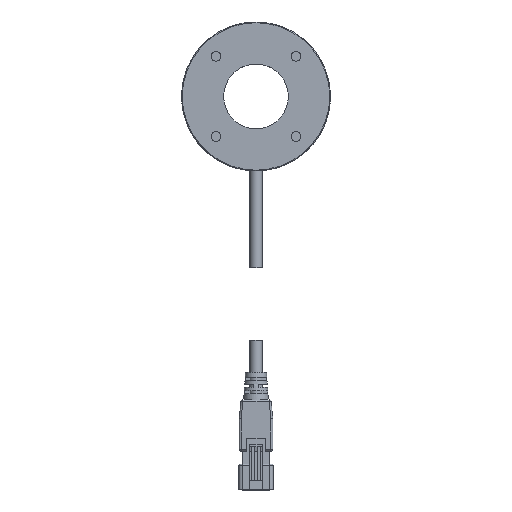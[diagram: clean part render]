
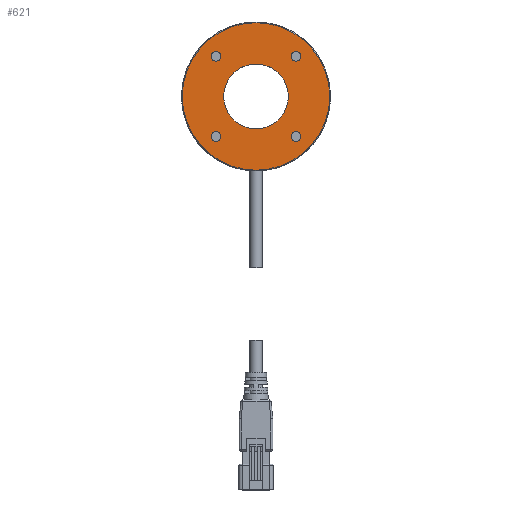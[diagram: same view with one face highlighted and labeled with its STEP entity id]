
A CAD part, top view. The second image highlights one B-rep face of the part: STEP entity #621.
In plain terms, the highlighted planar face has unit normal (0, 0, 1).
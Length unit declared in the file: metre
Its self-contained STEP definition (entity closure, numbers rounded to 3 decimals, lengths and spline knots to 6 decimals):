
#621=ADVANCED_FACE('489:2714',(#1496,#1497,#1498,#1499,#1500,#1501),#1502,.T.);
#1496=FACE_OUTER_BOUND('',#2550,.T.);
#1497=FACE_BOUND('',#2551,.T.);
#1498=FACE_BOUND('',#2552,.T.);
#1499=FACE_BOUND('',#2553,.T.);
#1500=FACE_BOUND('',#2554,.T.);
#1501=FACE_BOUND('',#2555,.T.);
#1502=PLANE('',#2556);
#2550=EDGE_LOOP('',(#4341));
#2551=EDGE_LOOP('',(#4342));
#2552=EDGE_LOOP('',(#4343));
#2553=EDGE_LOOP('',(#4344));
#2554=EDGE_LOOP('',(#4345));
#2555=EDGE_LOOP('',(#4346));
#2556=AXIS2_PLACEMENT_3D('',#4347,#4348,#4349);
#4341=ORIENTED_EDGE('',*,*,#6153,.F.);
#4342=ORIENTED_EDGE('',*,*,#6154,.F.);
#4343=ORIENTED_EDGE('',*,*,#6155,.F.);
#4344=ORIENTED_EDGE('',*,*,#6156,.F.);
#4345=ORIENTED_EDGE('',*,*,#6157,.F.);
#4346=ORIENTED_EDGE('',*,*,#6151,.F.);
#4347=CARTESIAN_POINT('',(0.0,0.0,0.016));
#4348=DIRECTION('',(0.0,0.0,1.0));
#4349=DIRECTION('',(1.0,0.,0.0));
#6151=EDGE_CURVE('489:3359',#7216,#7216,#7217,.T.);
#6153=EDGE_CURVE('489:3344',#7219,#7219,#7220,.T.);
#6154=EDGE_CURVE('489:3347',#7221,#7221,#7222,.T.);
#6155=EDGE_CURVE('489:3350',#7223,#7223,#7224,.T.);
#6156=EDGE_CURVE('489:3353',#7225,#7225,#7226,.T.);
#6157=EDGE_CURVE('489:3356',#7227,#7227,#7228,.T.);
#7216=VERTEX_POINT('',#10489);
#7217=CIRCLE('',#10490,0.0015);
#7219=VERTEX_POINT('',#10492);
#7220=CIRCLE('',#10493,0.0228);
#7221=VERTEX_POINT('',#10494);
#7222=CIRCLE('',#10495,0.01);
#7223=VERTEX_POINT('',#10496);
#7224=CIRCLE('',#10497,0.0015);
#7225=VERTEX_POINT('',#10498);
#7226=CIRCLE('',#10499,0.0015);
#7227=VERTEX_POINT('',#10500);
#7228=CIRCLE('',#10501,0.0015);
#10489=CARTESIAN_POINT('',(0.012374,-0.010874,0.016));
#10490=AXIS2_PLACEMENT_3D('',#12040,#12041,#12042);
#10492=CARTESIAN_POINT('',(-0.0228,0.,0.016));
#10493=AXIS2_PLACEMENT_3D('',#12043,#12044,#12045);
#10494=CARTESIAN_POINT('',(0.01,0.,0.016));
#10495=AXIS2_PLACEMENT_3D('',#12046,#12047,#12048);
#10496=CARTESIAN_POINT('',(-0.012374,0.013874,0.016));
#10497=AXIS2_PLACEMENT_3D('',#12049,#12050,#12051);
#10498=CARTESIAN_POINT('',(-0.012374,-0.010874,0.016));
#10499=AXIS2_PLACEMENT_3D('',#12052,#12053,#12054);
#10500=CARTESIAN_POINT('',(0.012374,0.013874,0.016));
#10501=AXIS2_PLACEMENT_3D('',#12055,#12056,#12057);
#12040=CARTESIAN_POINT('',(0.012374,-0.012374,0.016));
#12041=DIRECTION('',(0.0,0.0,1.0));
#12042=DIRECTION('',(0.,1.0,-0.0));
#12043=CARTESIAN_POINT('',(0.0,0.0,0.016));
#12044=DIRECTION('',(-0.0,0.0,-1.0));
#12045=DIRECTION('',(-1.0,0.,0.0));
#12046=CARTESIAN_POINT('',(0.0,0.0,0.016));
#12047=DIRECTION('',(0.0,0.0,1.0));
#12048=DIRECTION('',(1.0,0.,0.0));
#12049=CARTESIAN_POINT('',(-0.012374,0.012374,0.016));
#12050=DIRECTION('',(0.0,0.0,1.0));
#12051=DIRECTION('',(0.,1.0,-0.0));
#12052=CARTESIAN_POINT('',(-0.012374,-0.012374,0.016));
#12053=DIRECTION('',(0.0,0.0,1.0));
#12054=DIRECTION('',(0.,1.0,-0.0));
#12055=CARTESIAN_POINT('',(0.012374,0.012374,0.016));
#12056=DIRECTION('',(0.0,0.0,1.0));
#12057=DIRECTION('',(0.,1.0,-0.0));
